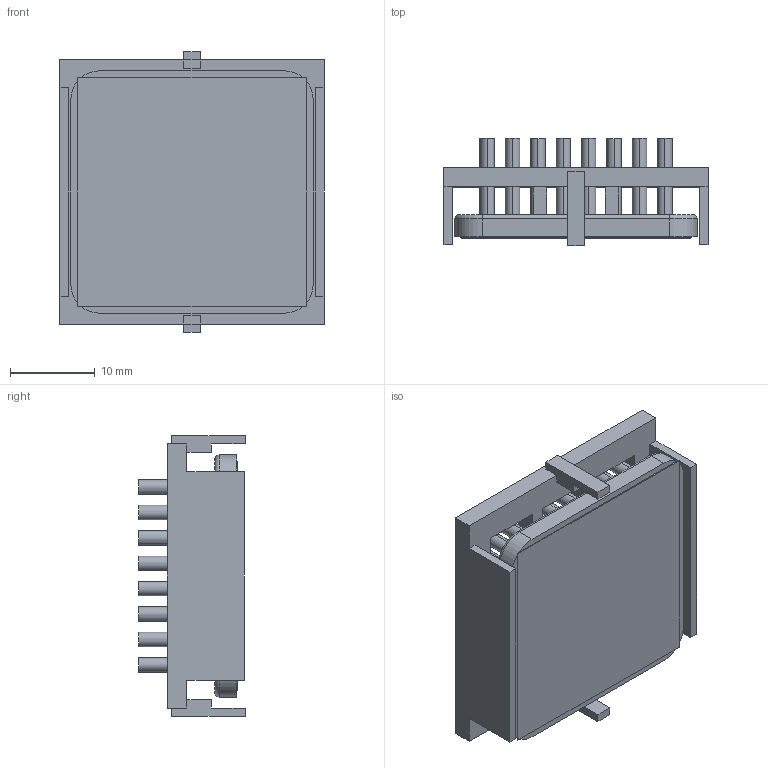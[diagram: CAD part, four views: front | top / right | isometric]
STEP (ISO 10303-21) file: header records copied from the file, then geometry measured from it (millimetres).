
FILE_DESCRIPTION (( 'STEP AP214' ), '1' );
FILE_NAME ('INM29002-12PCU-2.6O.STEP', '2023-03-02T23:04:13', ( '' ), ( '' ), 'SwSTEP 2.0', 'SolidWorks 2020', '' );
FILE_SCHEMA (( 'AUTOMOTIVE_DESIGN' ));
Length unit declared in the file: inch
Products named in the file (1): INM29002-12PCU-2.6O
Bounding box: 31.2 x 12.6 x 33.2 mm (x, y, z)
Volume: 4750.1 mm3; surface area: 8419.8 mm2
Topology: 3 solids, 3 shells, 250 faces, 556 edges, 368 vertices
Faces by surface type: plane 126, cylinder 120, torus 4
Entity records: 10316 total; most frequent: DIRECTION 1302, CARTESIAN_POINT 1175, ORIENTED_EDGE 1112, EDGE_CURVE 556, AXIS2_PLACEMENT_3D 495, VERTEX_POINT 368, VECTOR 312, LINE 312
